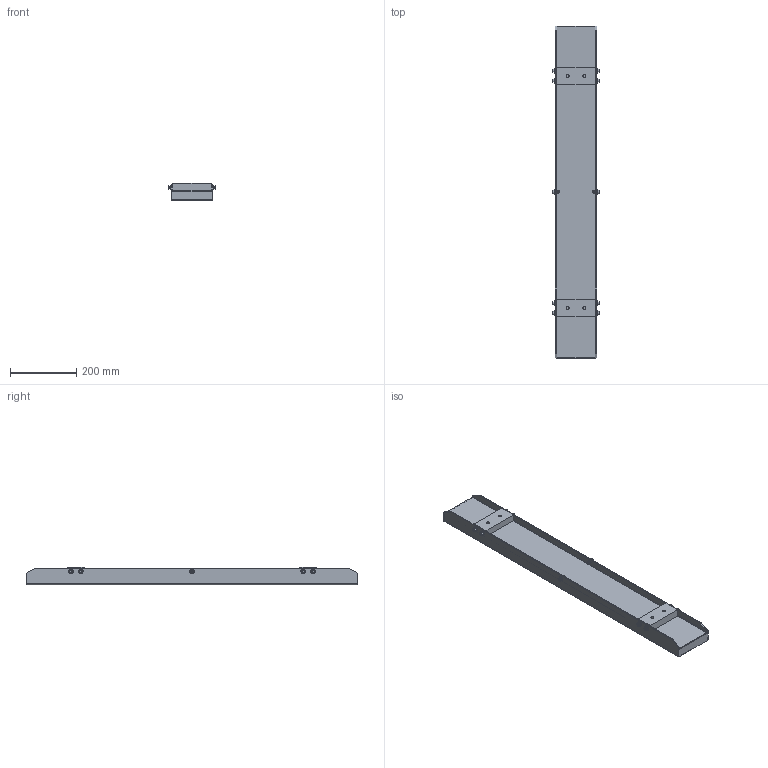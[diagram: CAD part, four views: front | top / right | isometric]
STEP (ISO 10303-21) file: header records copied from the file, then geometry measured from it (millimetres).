
FILE_DESCRIPTION(/* description */ (''),/* implementation_level */ '2;1');
FILE_NAME(/* name */ 'SPR-125Wx050Hx1000L.step',/* time_stamp */ '2022-12-19T15:44:13+09:00',/* author */ (''),/* organization */ (''),/* preprocessor_version */ 'ST-DEVELOPER v19.2',/* originating_system */ 'Autodesk Translation Framework v11.17.0.187',/* authorisation */ '');
FILE_SCHEMA (('AUTOMOTIVE_DESIGN { 1 0 10303 214 3 1 1 }'));
Length unit declared in the file: millimetre
Products named in the file (10): SPR-125Wx050Hx1000L; BODY1; UNUTKZ6; CAP_BOLT_M6(L=16) v1(ミラー) (1); UNUTKZ6 v2(ミラー); BODY2; Bracket; Bracket_1; CAP_BOLT_M6(L=16); CAP_BOLT_M6(L=16) v1(ミラー)
Assembly tree (16 placements, depth 3):
  SPR-125Wx050Hx1000L
    BODY1
      CAP_BOLT_M6(L=16)
      UNUTKZ6
      CAP_BOLT_M6(L=16) v1(ミラー) (1)
      UNUTKZ6 v2(ミラー)
    BODY2
    Bracket
      CAP_BOLT_M6(L=16)  x2
      CAP_BOLT_M6(L=16) v1(ミラー)  x2
    Bracket_1
      CAP_BOLT_M6(L=16)  x2
      CAP_BOLT_M6(L=16) v1(ミラー)  x2
Bounding box: 141.6 x 1000 x 52 mm (x, y, z)
Volume: 1024680.3 mm3; surface area: 829886.2 mm2
Topology: 26 solids, 26 shells, 338 faces, 748 edges, 482 vertices
Faces by surface type: plane 214, cylinder 90, cone 32, torus 2
Full cylindrical faces by diameter (mm): 4.917 x2, 5.035 x4, 5.5 x10, 6 x10, 6.5 x10, 8 x2, 8.526 x4, 10 x12, 14 x10
Entity records: 6879 total; most frequent: CARTESIAN_POINT 1225, DIRECTION 1168, ORIENTED_EDGE 1068, EDGE_CURVE 534, AXIS2_PLACEMENT_3D 429, VERTEX_POINT 342, LINE 310, VECTOR 310
